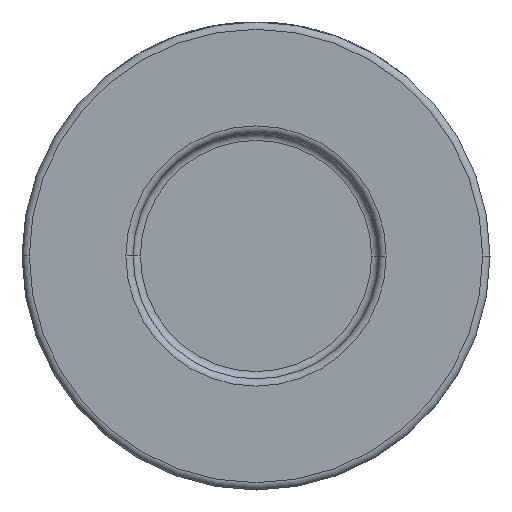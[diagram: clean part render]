
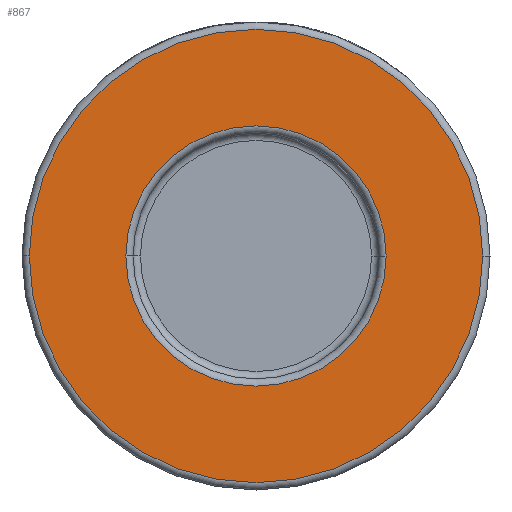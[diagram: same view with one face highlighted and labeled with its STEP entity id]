
A CAD part, front view. The second image highlights one B-rep face of the part: STEP entity #867.
In plain terms, the highlighted planar face has unit normal (0, -1, 0).
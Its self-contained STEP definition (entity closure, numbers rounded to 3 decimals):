
#4 = CARTESIAN_POINT ( 'NONE',  ( 31., -21., 0. ) ) ;
#25 = EDGE_CURVE ( 'NONE', #198, #3860, #4371, .T. ) ;
#84 = CARTESIAN_POINT ( 'NONE',  ( -31., -21., 0. ) ) ;
#183 = EDGE_CURVE ( 'NONE', #1699, #1868, #1729, .T. ) ;
#198 = VERTEX_POINT ( 'NONE', #3558 ) ;
#470 = EDGE_LOOP ( 'NONE', ( #1544, #1676 ) ) ;
#488 = AXIS2_PLACEMENT_3D ( 'NONE', #3039, #1376, #1312 ) ;
#597 = FACE_OUTER_BOUND ( 'NONE', #1564, .T. ) ;
#867 = ADVANCED_FACE ( 'NONE', ( #3804, #597 ), #4166, .T. ) ;
#1008 = DIRECTION ( 'NONE',  ( 0., 1., 0. ) ) ;
#1250 = CIRCLE ( 'NONE', #1844, 31. ) ;
#1312 = DIRECTION ( 'NONE',  ( 1., 0., 0. ) ) ;
#1376 = DIRECTION ( 'NONE',  ( 0., -1., 0. ) ) ;
#1385 = CARTESIAN_POINT ( 'NONE',  ( 0., -21., 0. ) ) ;
#1411 = DIRECTION ( 'NONE',  ( 1., 0., 0. ) ) ;
#1448 = DIRECTION ( 'NONE',  ( 0., 1., 0. ) ) ;
#1544 = ORIENTED_EDGE ( 'NONE', *, *, #2637, .T. ) ;
#1564 = EDGE_LOOP ( 'NONE', ( #4477, #3726 ) ) ;
#1676 = ORIENTED_EDGE ( 'NONE', *, *, #25, .T. ) ;
#1699 = VERTEX_POINT ( 'NONE', #84 ) ;
#1729 = CIRCLE ( 'NONE', #2468, 31. ) ;
#1844 = AXIS2_PLACEMENT_3D ( 'NONE', #2929, #2633, #4331 ) ;
#1868 = VERTEX_POINT ( 'NONE', #4 ) ;
#2025 = AXIS2_PLACEMENT_3D ( 'NONE', #2852, #1448, #4191 ) ;
#2468 = AXIS2_PLACEMENT_3D ( 'NONE', #1385, #2747, #1411 ) ;
#2633 = DIRECTION ( 'NONE',  ( 0., -1., 0. ) ) ;
#2637 = EDGE_CURVE ( 'NONE', #3860, #198, #3684, .T. ) ;
#2747 = DIRECTION ( 'NONE',  ( 0., -1., 0. ) ) ;
#2852 = CARTESIAN_POINT ( 'NONE',  ( 0., -21., 0. ) ) ;
#2866 = AXIS2_PLACEMENT_3D ( 'NONE', #4456, #1008, #4516 ) ;
#2929 = CARTESIAN_POINT ( 'NONE',  ( 0., -21., 0. ) ) ;
#3039 = CARTESIAN_POINT ( 'NONE',  ( 32., -21., 0. ) ) ;
#3110 = EDGE_CURVE ( 'NONE', #1868, #1699, #1250, .T. ) ;
#3245 = CARTESIAN_POINT ( 'NONE',  ( 17.8, -21., 0. ) ) ;
#3558 = CARTESIAN_POINT ( 'NONE',  ( -17.8, -21., 0. ) ) ;
#3684 = CIRCLE ( 'NONE', #2866, 17.8 ) ;
#3726 = ORIENTED_EDGE ( 'NONE', *, *, #183, .T. ) ;
#3804 = FACE_BOUND ( 'NONE', #470, .T. ) ;
#3860 = VERTEX_POINT ( 'NONE', #3245 ) ;
#4166 = PLANE ( 'NONE',  #488 ) ;
#4191 = DIRECTION ( 'NONE',  ( 1., 0., 0. ) ) ;
#4331 = DIRECTION ( 'NONE',  ( 1., 0., 0. ) ) ;
#4371 = CIRCLE ( 'NONE', #2025, 17.8 ) ;
#4456 = CARTESIAN_POINT ( 'NONE',  ( 0., -21., 0. ) ) ;
#4477 = ORIENTED_EDGE ( 'NONE', *, *, #3110, .T. ) ;
#4516 = DIRECTION ( 'NONE',  ( 1., 0., 0. ) ) ;
